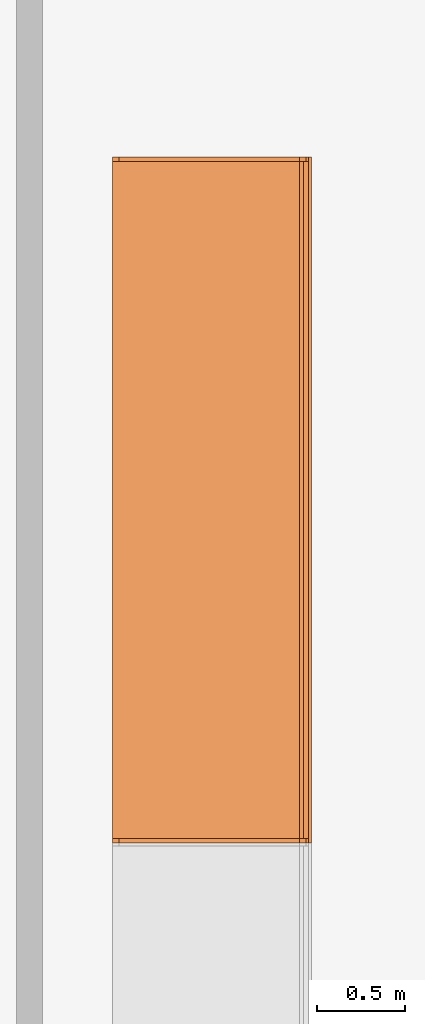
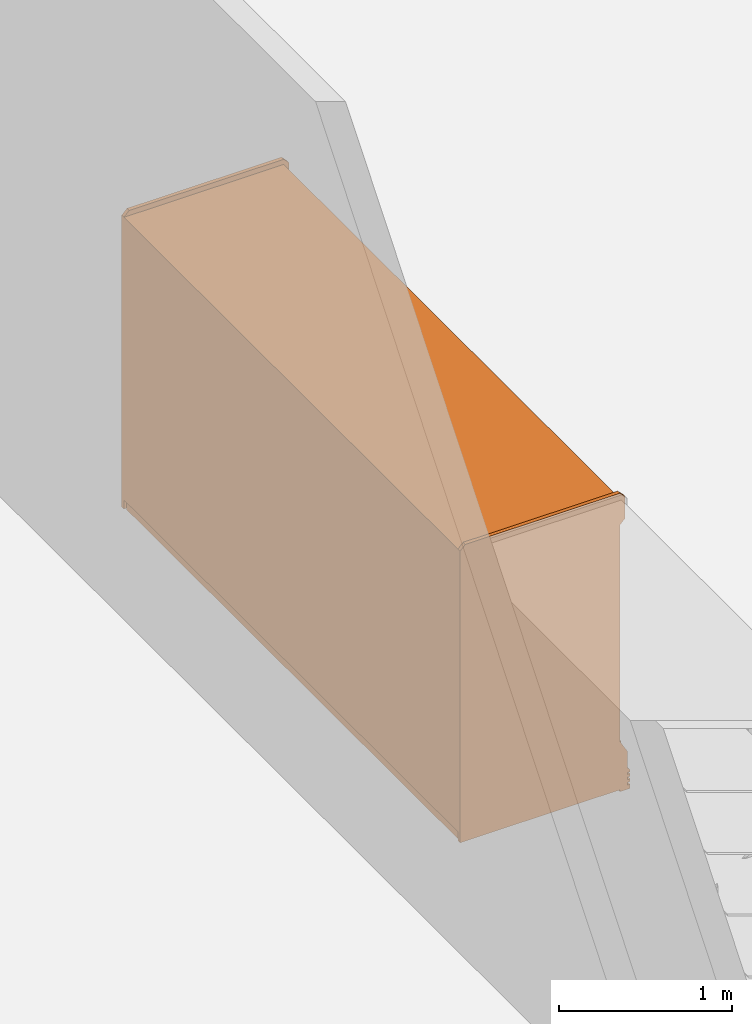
# One storey, part 4 of 11: 1 proxy.
"""IFC2X3 building model written with IfcOpenShell, lengths in metres."""

from ifc_helpers import new_model, entity, si_unit, converted_unit, derived_unit, direction, frame, frame_2d, origin, origin_2d_with_axis, place, context, subcontext, project, spatial, polyline, circle_curve, parameter, trimmed, segment, composite_curve, rectangle, outline, extrude, source, transform, mapped, material, material_list, type_object, type_shapes, element, save


model = new_model("IFC2X3")

# Units and contexts
model_context = context("Model", 3, precision=1e-05, world=origin(), true_north=direction((6.12303176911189e-17, 1.0)))
body_context = subcontext(model_context, "Body", "Model", "MODEL_VIEW")
ifc_project = project(units=[si_unit("LENGTHUNIT", "METRE"), si_unit("AREAUNIT", "SQUARE_METRE"), si_unit("VOLUMEUNIT", "CUBIC_METRE"), converted_unit("PLANEANGLEUNIT", "DEGREE", entity("IfcRatioMeasure", 0.0174532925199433), si_unit("PLANEANGLEUNIT", "RADIAN"), dimensions=[0, 0, 0, 0, 0, 0, 0]), si_unit("MASSUNIT", "GRAM", prefix="KILO"), derived_unit("MASSDENSITYUNIT", [(si_unit("MASSUNIT", "GRAM", prefix="KILO"), 1), (si_unit("LENGTHUNIT", "METRE"), -3)]), si_unit("TIMEUNIT", "SECOND"), si_unit("FREQUENCYUNIT", "HERTZ"), si_unit("THERMODYNAMICTEMPERATUREUNIT", "DEGREE_CELSIUS"), derived_unit("THERMALTRANSMITTANCEUNIT", [(si_unit("MASSUNIT", "GRAM", prefix="KILO"), 1), (si_unit("THERMODYNAMICTEMPERATUREUNIT", "KELVIN"), -1), (si_unit("TIMEUNIT", "SECOND"), -3)]), derived_unit("VOLUMETRICFLOWRATEUNIT", [(si_unit("LENGTHUNIT", "METRE"), 3), (si_unit("TIMEUNIT", "SECOND"), -1)]), si_unit("ELECTRICCURRENTUNIT", "AMPERE"), si_unit("ELECTRICVOLTAGEUNIT", "VOLT"), si_unit("POWERUNIT", "WATT"), si_unit("FORCEUNIT", "NEWTON", prefix="KILO"), si_unit("ILLUMINANCEUNIT", "LUX"), si_unit("LUMINOUSFLUXUNIT", "LUMEN"), si_unit("LUMINOUSINTENSITYUNIT", "CANDELA"), derived_unit("USERDEFINED", [(si_unit("MASSUNIT", "GRAM", prefix="KILO"), -1), (si_unit("LENGTHUNIT", "METRE"), -2), (si_unit("TIMEUNIT", "SECOND"), 3), (si_unit("LUMINOUSFLUXUNIT", "LUMEN"), 1)]), derived_unit("LINEARVELOCITYUNIT", [(si_unit("LENGTHUNIT", "METRE"), 1), (si_unit("TIMEUNIT", "SECOND"), -1)]), si_unit("PRESSUREUNIT", "PASCAL"), derived_unit("USERDEFINED", [(si_unit("LENGTHUNIT", "METRE"), -2), (si_unit("MASSUNIT", "GRAM", prefix="KILO"), 1), (si_unit("TIMEUNIT", "SECOND"), -2)])], contexts=[model_context])

# Site, building, storey
site_placement = place(None, origin())
site = spatial("IfcSite", under=ifc_project, at=site_placement, Name="Default", CompositionType="ELEMENT")
building_placement = place(site_placement, origin())
building = spatial("IfcBuilding", under=site, at=building_placement, CompositionType="ELEMENT")
storey_placement = place(building_placement, frame((0.0, 0.0, 1.49233632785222)))
storey = spatial("IfcBuildingStorey", under=building, at=storey_placement, Name="Niveau 0", CompositionType="ELEMENT", Elevation=1.49233632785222)

# Proxy
ifc_material_1 = material(Name="Métal - Chrome")
ifc_material_2 = material(Name="Verre")
ifc_material_3 = material(Name="Peinture - Blanc")
ifc_material_4 = material(Name="Peinture - Gris foncé")
ifc_material_list_1 = material_list([ifc_material_1, ifc_material_2, ifc_material_3, ifc_material_4])
ifc_material_list_2 = material_list([ifc_material_1, ifc_material_2, ifc_material_3, ifc_material_4])
building_element_proxy_type = type_object("IfcBuildingElementProxyType", Name="Longueur 3910 mm", PredefinedType="NOTDEFINED", material=ifc_material_list_2)
shared_shape = source(origin(), body_context, "Body", "SweptSolid", [
    extrude(outline(polyline([(-0.3937, -0.819150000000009), (0.3683, -0.819150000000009), (0.3683, -0.768350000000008), (-0.3429, -0.768350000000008), (-0.3429, 0.768350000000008), (0.3683, 0.768350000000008), (0.3683, 0.819150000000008), (-0.3937, 0.819150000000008), (-0.3937, -0.819150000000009)])), frame((0.211931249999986, 0.0126999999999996, 1.18745000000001), z_axis=(0.0, 1.0, 0.0), x_axis=(1.0, 0.0, 0.0)), (0.0, 0.0, 1.0), 0.0253999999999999),
    extrude(outline(polyline([(-0.3937, -0.819150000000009), (0.3683, -0.819150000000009), (0.3683, -0.768350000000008), (-0.3429, -0.768350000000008), (-0.3429, 0.768350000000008), (0.3683, 0.768350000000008), (0.3683, 0.819150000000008), (-0.3937, 0.819150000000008), (-0.3937, -0.819150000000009)])), frame((-0.556418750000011, 0.0126999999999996, 1.18745000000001), z_axis=(0.0, 1.0, 0.0), x_axis=(1.0, 0.0, 0.0)), (0.0, 0.0, 1.0), 0.0253999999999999),
    extrude(outline(polyline([(-0.3937, -0.819150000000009), (0.3683, -0.819150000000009), (0.3683, -0.768350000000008), (-0.3429, -0.768350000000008), (-0.3429, 0.768350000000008), (0.3683, 0.768350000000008), (0.3683, 0.819150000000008), (-0.3937, 0.819150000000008), (-0.3937, -0.819150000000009)])), frame((-1.32476875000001, 0.0126999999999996, 1.18745000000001), z_axis=(0.0, 1.0, 0.0), x_axis=(1.0, 0.0, 0.0)), (0.0, 0.0, 1.0), 0.0253999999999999),
    extrude(outline(polyline([(-0.3937, -0.819150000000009), (0.3683, -0.819150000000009), (0.3683, -0.768350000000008), (-0.3429, -0.768350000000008), (-0.3429, 0.768350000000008), (0.3683, 0.768350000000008), (0.3683, 0.819150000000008), (-0.3937, 0.819150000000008), (-0.3937, -0.819150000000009)])), frame((-2.09311875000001, 0.0126999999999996, 1.18745000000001), z_axis=(0.0, 1.0, 0.0), x_axis=(1.0, 0.0, 0.0)), (0.0, 0.0, 1.0), 0.0253999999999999),
    extrude(outline(polyline([(-0.902820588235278, -0.201945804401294), (-0.902820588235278, -0.214645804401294), (0.82437941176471, -0.214645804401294), (0.82437941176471, -0.201945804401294), (0.608479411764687, -0.201945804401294), (0.608479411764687, -0.0898341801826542), (0.589429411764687, -0.070784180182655), (0.589429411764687, 0.303324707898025), (0.570379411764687, 0.312207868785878), (0.570379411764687, -0.201945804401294), (0.316379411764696, -0.201945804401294), (0.316379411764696, -0.0851023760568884), (0.297329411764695, -0.0660523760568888), (0.297329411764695, 0.303324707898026), (0.278279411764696, 0.312207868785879), (0.278279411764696, -0.201945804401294), (0.0242794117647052, -0.201945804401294), (0.0242794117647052, -0.0803705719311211), (0.00522941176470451, -0.0613205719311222), (0.00522941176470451, 0.391796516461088), (-0.0138205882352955, 0.40067967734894), (-0.0138205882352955, -0.201945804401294), (-0.267820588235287, -0.201945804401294), (-0.267820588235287, -0.0851023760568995), (-0.286870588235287, -0.0660523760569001), (-0.286870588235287, 0.391796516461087), (-0.305920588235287, 0.400679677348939), (-0.305920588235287, -0.201945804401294), (-0.559920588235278, -0.201945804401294), (-0.559920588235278, -0.0803705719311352), (-0.578970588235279, -0.0613205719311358), (-0.578970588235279, 0.387979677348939), (-0.598020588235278, 0.394954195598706), (-0.598020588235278, -0.201945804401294), (-0.902820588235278, -0.201945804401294)])), frame((-2.10542815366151, 0.69975419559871, 1.12917941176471), z_axis=(-1.0, 0.0, 0.0), x_axis=(0.0, 0.0, -1.0)), (0.0, 0.0, -1.0), 0.0119188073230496),
    extrude(outline(polyline([(-0.902820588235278, -0.201945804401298), (-0.902820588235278, -0.214645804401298), (0.82437941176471, -0.214645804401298), (0.82437941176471, -0.201945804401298), (0.608479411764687, -0.201945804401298), (0.608479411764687, -0.089834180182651), (0.589429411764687, -0.0707841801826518), (0.589429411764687, 0.303324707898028), (0.570379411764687, 0.312207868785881), (0.570379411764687, -0.201945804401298), (0.316379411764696, -0.201945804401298), (0.316379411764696, -0.0851023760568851), (0.297329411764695, -0.0660523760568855), (0.297329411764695, 0.303324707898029), (0.278279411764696, 0.312207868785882), (0.278279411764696, -0.201945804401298), (0.0242794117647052, -0.201945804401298), (0.0242794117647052, -0.0803705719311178), (0.00522941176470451, -0.0613205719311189), (0.00522941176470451, 0.391796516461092), (-0.0138205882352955, 0.400679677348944), (-0.0138205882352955, -0.201945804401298), (-0.267820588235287, -0.201945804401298), (-0.267820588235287, -0.0851023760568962), (-0.286870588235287, -0.0660523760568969), (-0.286870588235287, 0.39179651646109), (-0.305920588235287, 0.400679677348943), (-0.305920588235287, -0.201945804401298), (-0.559920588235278, -0.201945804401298), (-0.559920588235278, -0.0803705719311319), (-0.578970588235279, -0.0613205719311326), (-0.578970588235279, 0.387979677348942), (-0.598020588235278, 0.394954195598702), (-0.598020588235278, -0.201945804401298), (-0.902820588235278, -0.201945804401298)])), frame((-0.556028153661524, 0.699754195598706, 1.12917941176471), z_axis=(-1.0, 0.0, 0.0), x_axis=(0.0, 0.0, -1.0)), (0.0, 0.0, -1.0), 0.0119188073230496),
    extrude(outline(polyline([(-0.3937, -0.819150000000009), (0.3683, -0.819150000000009), (0.3683, -0.768350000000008), (-0.3429, -0.768350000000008), (-0.3429, 0.768350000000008), (0.3683, 0.768350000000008), (0.3683, 0.819150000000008), (-0.3937, 0.819150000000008), (-0.3937, -0.819150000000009)])), frame((-2.86146875, 0.0126999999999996, 1.18745000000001), z_axis=(0.0, 1.0, 0.0), x_axis=(1.0, 0.0, 0.0)), (0.0, 0.0, 1.0), 0.0253999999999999),
    extrude(rectangle(XDim=0.00634999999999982, YDim=2.20345000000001, at=frame_2d((-2.16840434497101e-18, 0.0), x_axis=(1.0, 0.0))), frame((-0.565943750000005, 0.0285749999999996, 0.419100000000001), z_axis=(0.0, 0.0, 1.0), x_axis=(0.0, 1.0, 0.0)), (0.0, 0.0, 1.0), 1.53670000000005),
    extrude(rectangle(XDim=0.00634999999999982, YDim=1.49224999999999, at=frame_2d((-2.16840434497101e-18, -1.11022302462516e-16), x_axis=(1.0, 0.0))), frame((-2.46459375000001, 0.0285749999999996, 0.4191), z_axis=(0.0, 0.0, 1.0), x_axis=(0.0, 1.0, 0.0)), (0.0, 0.0, 1.0), 1.53669999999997),
    extrude(outline(polyline([(-0.88265, -1.9304), (0.882649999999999, -1.9304), (0.88265, 1.9304), (-0.882649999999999, 1.9304), (-0.88265, -1.9304)]), holes=[polyline([(-0.806450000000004, -0.0190500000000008), (-0.806450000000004, 1.8923), (0.80645, 1.8923), (0.80645, -0.0190500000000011), (0.806449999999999, -1.8923), (-0.806450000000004, -1.8923), (-0.806450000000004, -0.0190500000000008)])]), frame((-1.35651875, 0.0380999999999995, 1.18745), z_axis=(0.0, 1.0, 0.0), x_axis=(0.0, 0.0, -1.0)), (0.0, 0.0, 1.0), 0.0381),
    extrude(outline(composite_curve([segment(trimmed(circle_curve(frame_2d((-0.0095885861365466, 0.0), x_axis=(1.0, 0.0)), 0.0327139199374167), [parameter(287.043889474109)], [parameter(72.9561105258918)], True, "PARAMETER"), True, "CONTINUOUS"), segment(polyline([(0.0, 0.0312771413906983), (0.0, -0.0312771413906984)]), True, "CONTINUOUS")], self_intersect=False)), frame((-3.28691875, 0.0, 0.324322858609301), z_axis=(1.0, 0.0, 0.0), x_axis=(0.0, -1.0, 0.0)), (0.0, 0.0, 1.0), 3.8608),
    extrude(outline(polyline([(-0.058322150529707, -0.045007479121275), (-0.0317412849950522, -0.045007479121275), (-0.0206789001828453, -0.0360006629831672), (-0.0312750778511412, -0.0229861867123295), (-0.0214265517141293, -0.0149676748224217), (-0.0108303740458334, -0.0279821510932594), (0.00394241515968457, -0.0159543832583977), (-0.00665376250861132, -0.00293990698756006), (0.00811902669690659, 0.0090878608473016), (0.0187152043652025, -0.00392661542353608), (0.0334879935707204, 0.00810115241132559), (0.0228918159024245, 0.0211156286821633), (0.0376646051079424, 0.0331433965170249), (0.0482607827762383, 0.0201289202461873), (0.0704563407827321, 0.0382001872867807), (0.0277861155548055, 0.0906087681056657), (-0.0903961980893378, -0.00561337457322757), (-0.058322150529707, -0.045007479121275)])), frame((-3.31231875, -0.052721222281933, 0.0787558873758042), z_axis=(1.0, 0.0, 0.0), x_axis=(0.0, -0.631378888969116, -0.775474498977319)), (0.0, 0.0, 1.0), 3.9116),
    extrude(outline(polyline([(-0.78162589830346, -1.01392662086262), (0.249253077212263, -1.01392662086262), (0.285174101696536, -0.978005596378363), (0.285174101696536, -0.825605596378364), (0.249253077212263, -0.789684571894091), (0.249253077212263, 0.736494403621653), (0.300053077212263, 0.824482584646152), (0.300053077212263, 0.939694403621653), (0.249253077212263, 0.939694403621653), (0.249253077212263, 1.07939440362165), (-0.817546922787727, 1.07939440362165), (-0.817546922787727, -0.978005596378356), (-0.78162589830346, -1.01392662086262)])), frame((0.573881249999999, 0.249253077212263, 1.09209440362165), z_axis=(1.0, 0.0, 0.0), x_axis=(0.0, -1.0, 0.0)), (0.0, 0.0, 1.0), 0.0253999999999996),
    extrude(outline(polyline([(-0.78162589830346, -1.01392662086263), (0.249253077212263, -1.01392662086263), (0.285174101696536, -0.97800559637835), (0.285174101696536, -0.825605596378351), (0.249253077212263, -0.789684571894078), (0.249253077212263, 0.736494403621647), (0.300053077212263, 0.824482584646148), (0.300053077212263, 0.939694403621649), (0.249253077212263, 0.939694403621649), (0.249253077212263, 1.07939440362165), (-0.817546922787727, 1.07939440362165), (-0.817546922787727, -0.97800559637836), (-0.78162589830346, -1.01392662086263)])), frame((-3.31231875, 0.249253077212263, 1.09209440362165), z_axis=(1.0, 0.0, 0.0), x_axis=(0.0, -1.0, 0.0)), (0.0, 0.0, 1.0), 0.0253999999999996),
    extrude(rectangle(XDim=3.8354, YDim=0.6096, at=origin_2d_with_axis()), frame((-1.35651875, 0.596900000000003, 0.558800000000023)), (0.0, 0.0, 1.0), 0.009525),
    extrude(rectangle(XDim=3.8354, YDim=0.6096, at=origin_2d_with_axis()), frame((-1.35651875, 0.596900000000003, 1.72719999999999)), (0.0, 0.0, 1.0), 0.009525),
    extrude(rectangle(XDim=3.8354, YDim=0.6096, at=origin_2d_with_axis()), frame((-1.35651875, 0.596900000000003, 1.4351)), (0.0, 0.0, 1.0), 0.009525),
    extrude(rectangle(XDim=3.8354, YDim=0.6096, at=frame_2d((0.0, -5.55111512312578e-17), x_axis=(1.0, 0.0))), frame((-1.35651875, 0.596900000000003, 1.14300000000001)), (0.0, 0.0, 1.0), 0.009525),
    extrude(rectangle(XDim=3.8354, YDim=0.6096, at=frame_2d((0.0, -5.55111512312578e-17), x_axis=(1.0, 0.0))), frame((-1.35651875, 0.596900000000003, 0.850900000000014)), (0.0, 0.0, 1.0), 0.009525),
    extrude(outline(polyline([(-0.902820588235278, -0.198746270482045), (-0.902820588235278, -0.211446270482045), (0.82437941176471, -0.211446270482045), (0.82437941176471, -0.198746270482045), (0.608479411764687, -0.198746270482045), (0.608479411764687, -0.0923601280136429), (0.589429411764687, -0.0733101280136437), (0.589429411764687, 0.300798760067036), (0.570379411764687, 0.309681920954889), (0.570379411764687, -0.198746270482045), (0.316379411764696, -0.198746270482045), (0.316379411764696, -0.0876283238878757), (0.297329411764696, -0.0685783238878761), (0.297329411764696, 0.300798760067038), (0.278279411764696, 0.309681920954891), (0.278279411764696, -0.198746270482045), (0.0242794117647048, -0.198746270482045), (0.0242794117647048, -0.082896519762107), (0.0052294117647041, -0.0638465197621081), (0.0052294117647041, 0.389270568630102), (-0.0138205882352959, 0.398153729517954), (-0.0138205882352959, -0.198746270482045), (-0.267820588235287, -0.198746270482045), (-0.267820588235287, -0.0876283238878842), (-0.286870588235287, -0.0685783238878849), (-0.286870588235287, 0.389270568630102), (-0.305920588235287, 0.398153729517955), (-0.305920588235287, -0.198746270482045), (-0.559920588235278, -0.198746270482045), (-0.559920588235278, -0.0828965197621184), (-0.578970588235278, -0.0638465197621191), (-0.578970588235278, 0.385453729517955), (-0.598020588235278, 0.398153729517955), (-0.598020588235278, -0.198746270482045), (-0.902820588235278, -0.198746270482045)])), frame((-1.36247815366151, 0.702953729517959, 1.12917941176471), z_axis=(-1.0, 0.0, 0.0), x_axis=(0.0, 0.0, -1.0)), (0.0, 0.0, -1.0), 0.0119188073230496),
    extrude(outline(polyline([(-0.902820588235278, -0.198746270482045), (-0.902820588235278, -0.211446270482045), (0.82437941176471, -0.211446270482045), (0.82437941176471, -0.198746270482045), (0.608479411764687, -0.198746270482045), (0.608479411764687, -0.0923601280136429), (0.589429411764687, -0.0733101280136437), (0.589429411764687, 0.300798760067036), (0.570379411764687, 0.309681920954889), (0.570379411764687, -0.198746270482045), (0.316379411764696, -0.198746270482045), (0.316379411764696, -0.0876283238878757), (0.297329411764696, -0.0685783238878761), (0.297329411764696, 0.300798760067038), (0.278279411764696, 0.309681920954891), (0.278279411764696, -0.198746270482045), (0.0242794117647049, -0.198746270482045), (0.0242794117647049, -0.082896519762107), (0.00522941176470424, -0.0638465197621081), (0.00522941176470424, 0.389270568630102), (-0.0138205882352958, 0.398153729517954), (-0.0138205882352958, -0.198746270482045), (-0.267820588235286, -0.198746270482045), (-0.267820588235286, -0.0876283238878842), (-0.286870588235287, -0.0685783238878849), (-0.286870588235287, 0.389270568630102), (-0.305920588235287, 0.398153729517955), (-0.305920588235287, -0.198746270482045), (-0.559920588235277, -0.198746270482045), (-0.559920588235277, -0.0828965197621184), (-0.578970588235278, -0.0638465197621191), (-0.578970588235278, 0.385453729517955), (-0.598020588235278, 0.398153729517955), (-0.598020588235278, -0.198746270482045), (-0.902820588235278, -0.198746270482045)])), frame((0.548481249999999, 0.702953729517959, 1.12917941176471), z_axis=(-1.0, 0.0, 0.0), x_axis=(0.0, 0.0, -1.0)), (0.0, 0.0, -1.0), 0.0126999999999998),
    extrude(outline(polyline([(-0.902820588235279, -0.198746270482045), (-0.902820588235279, -0.211446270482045), (0.824379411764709, -0.211446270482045), (0.824379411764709, -0.198746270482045), (0.608479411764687, -0.198746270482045), (0.608479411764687, -0.0923601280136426), (0.589429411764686, -0.0733101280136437), (0.589429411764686, 0.300798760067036), (0.570379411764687, 0.309681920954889), (0.570379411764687, -0.198746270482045), (0.316379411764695, -0.198746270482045), (0.316379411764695, -0.0876283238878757), (0.297329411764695, -0.0685783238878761), (0.297329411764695, 0.300798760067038), (0.278279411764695, 0.309681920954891), (0.278279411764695, -0.198746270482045), (0.0242794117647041, -0.198746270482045), (0.0242794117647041, -0.082896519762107), (0.00522941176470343, -0.0638465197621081), (0.00522941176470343, 0.389270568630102), (-0.0138205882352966, 0.398153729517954), (-0.0138205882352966, -0.198746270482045), (-0.267820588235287, -0.198746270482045), (-0.267820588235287, -0.0876283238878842), (-0.286870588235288, -0.0685783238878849), (-0.286870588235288, 0.389270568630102), (-0.305920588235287, 0.398153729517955), (-0.305920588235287, -0.198746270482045), (-0.559920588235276, -0.198746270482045), (-0.559920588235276, -0.0828965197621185), (-0.578970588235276, -0.0638465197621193), (-0.578970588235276, 0.385453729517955), (-0.598020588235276, 0.398153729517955), (-0.598020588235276, -0.198746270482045), (-0.902820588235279, -0.198746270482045)])), frame((-3.27421875, 0.702953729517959, 1.12917941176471), z_axis=(-1.0, 0.0, 0.0), x_axis=(0.0, 0.0, -1.0)), (0.0, 0.0, -1.0), 0.0127000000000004),
    extrude(outline(polyline([(-0.99836485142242, -0.344904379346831), (-0.947564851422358, -0.344904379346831), (-0.947564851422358, -0.192504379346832), (-0.960264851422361, -0.192504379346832), (-0.960264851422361, 0.569495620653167), (0.766935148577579, 0.569495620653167), (0.766935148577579, -0.306804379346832), (0.716135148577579, -0.306804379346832), (0.716135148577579, -0.344904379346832), (0.855178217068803, -0.344904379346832), (0.995535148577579, -0.204547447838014), (0.995535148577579, 0.721895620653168), (-0.99836485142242, 0.721895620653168), (-0.99836485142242, -0.344904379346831)])), frame((-3.28691875, 0.344904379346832, 1.07173514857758), z_axis=(1.0, 0.0, 0.0), x_axis=(0.0, 0.0, -1.0)), (0.0, 0.0, 1.0), 3.8608),
    extrude(rectangle(XDim=3.8608, YDim=0.85725, at=frame_2d((-3.33066907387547e-16, -5.55111512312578e-17), x_axis=(1.0, 0.0))), frame((-1.35651875, 0.619125, 0.0), z_axis=(0.0, 0.0, 1.0), x_axis=(-1.0, 0.0, 0.0)), (0.0, 0.0, 1.0), 0.0762),
])
type_shapes(building_element_proxy_type, [shared_shape])
proxy_placement = place(storey_placement, frame((-1.86966022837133, -10.6991311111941, 0.0), z_axis=(0.0, 0.0, 1.0), x_axis=(0.0, 1.0, 0.0)))
element("IfcBuildingElementProxy", 1, at=proxy_placement, inside=storey, type_object=building_element_proxy_type, material=ifc_material_list_1, Name="Congélateur - Vertical cinq portes:Longueur 3910 mm", ObjectType="Congélateur - Vertical cinq portes:Longueur 3910 mm", context=body_context, shape_type="MappedRepresentation", body=[
    mapped(shared_shape, transform((0.0, 0.0, 0.0), scale=1.0)),
])

save(model, "model.ifc")
